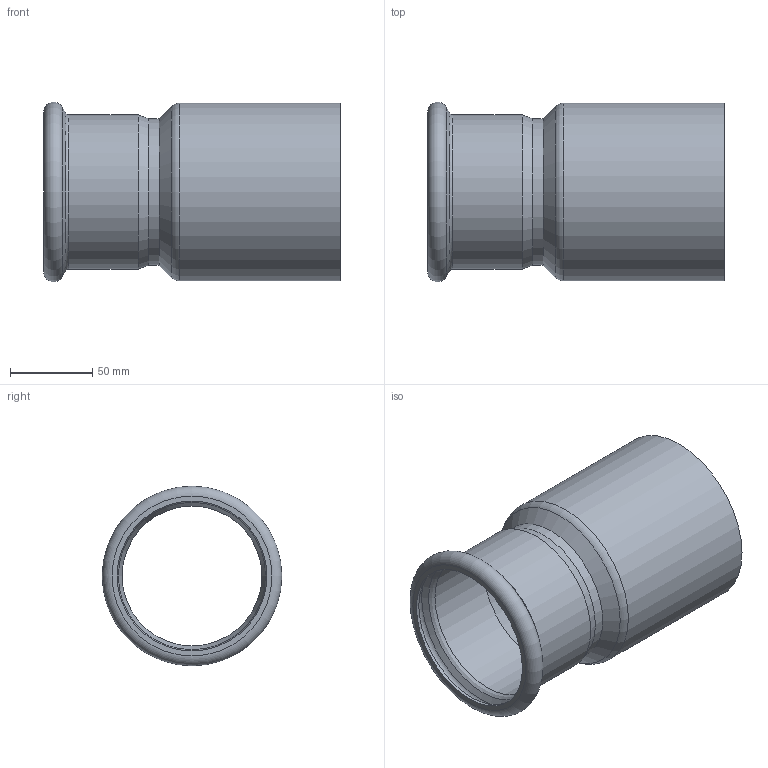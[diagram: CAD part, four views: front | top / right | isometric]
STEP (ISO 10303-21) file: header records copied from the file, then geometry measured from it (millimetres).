
FILE_DESCRIPTION((''),'2;1');
FILE_NAME('G:\Nirosan-Schmiedefeld\Technics\CAD\Bauteile VA\108\6924310889(2).stp','2009-05-08T09:54:09',('herberg'),(''),'Autodesk Inventor 2009','Autodesk Inventor 2009','');
FILE_SCHEMA(('AUTOMOTIVE_DESIGN { 1 0 10303 214 1 1 1 1 }'));
Length unit declared in the file: millimetre
Products named in the file (3): 6924310889(2); R_6924310889(0); HM_6924389(1)
Assembly tree (2 placements, depth 2):
  6924310889(2)
    R_6924310889(0)
    HM_6924389(1)
Bounding box: 180 x 109.07 x 109.07 mm (x, y, z)
Volume: 121283.7 mm3; surface area: 123606.7 mm2
Topology: 2 solids, 2 shells, 25 faces, 46 edges, 26 vertices
Faces by surface type: cylinder 8, cone 6, plane 5, bspline 3, torus 3
Full cylindrical faces by diameter (mm): 84.9 x2, 88.9 x1, 89.5 x1, 91 x1, 93.5 x1, 104 x1, 108 x1
Entity records: 721 total; most frequent: CARTESIAN_POINT 212, DIRECTION 104, AXIS2_PLACEMENT_3D 52, ORIENTED_EDGE 50, EDGE_LOOP 50, VERTEX_POINT 25, CIRCLE 25, EDGE_CURVE 25
